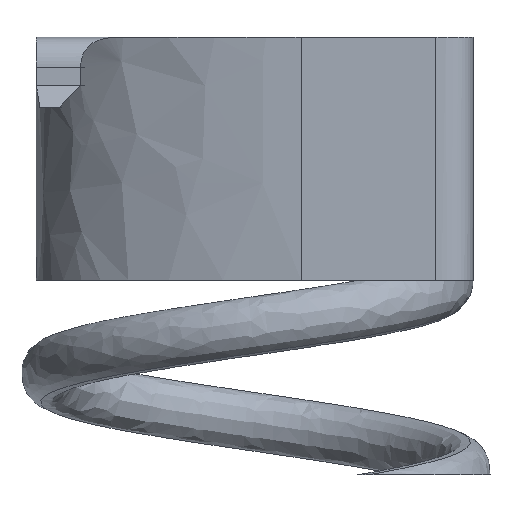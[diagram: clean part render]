
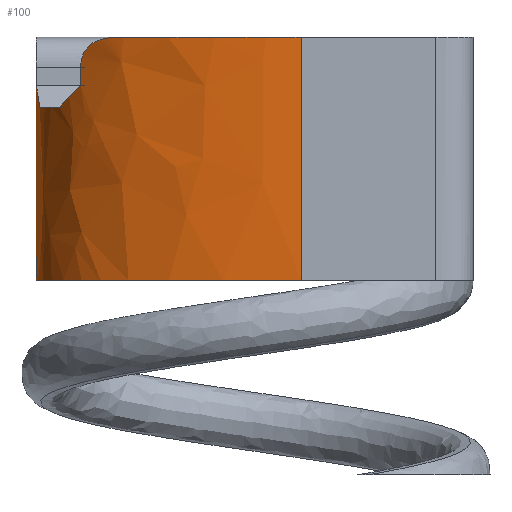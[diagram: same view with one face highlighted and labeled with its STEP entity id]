
A CAD part, left-side view. The second image highlights one B-rep face of the part: STEP entity #100.
In plain terms, the highlighted free-form (B-spline) face has degree [3, 1] with [4, 2] control points.
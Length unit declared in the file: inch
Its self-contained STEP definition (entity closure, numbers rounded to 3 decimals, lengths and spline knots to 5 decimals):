
#100=ADVANCED_FACE('',(#211),#212,.F.);
#211=FACE_OUTER_BOUND('',#541,.T.);
#212=B_SPLINE_SURFACE_WITH_KNOTS('',3,1,((#542,#543),(#544,#545),(#546,#547),(#548,#549)),.UNSPECIFIED.,.F.,.F.,.F.,(4,4),(2,2),(-1.0,-0.0),(0.0,0.39392),.UNSPECIFIED.);
#541=EDGE_LOOP('',(#1490,#1491,#1492,#1493,#1494,#1495,#1496,#1497,#1498,#1499,#1500));
#542=CARTESIAN_POINT('',(0.22426,0.5623,0.02037));
#543=CARTESIAN_POINT('',(0.22426,0.5623,-0.37355));
#544=CARTESIAN_POINT('',(0.02389,0.5623,0.02037));
#545=CARTESIAN_POINT('',(0.02389,0.5623,-0.37355));
#546=CARTESIAN_POINT('',(-0.00003,0.27229,0.02037));
#547=CARTESIAN_POINT('',(-0.00003,0.27229,-0.37355));
#548=CARTESIAN_POINT('',(-0.00003,0.21846,0.02037));
#549=CARTESIAN_POINT('',(-0.00003,0.21846,-0.37355));
#1490=ORIENTED_EDGE('',*,*,#1737,.F.);
#1491=ORIENTED_EDGE('',*,*,#1726,.F.);
#1492=ORIENTED_EDGE('',*,*,#1738,.F.);
#1493=ORIENTED_EDGE('',*,*,#1717,.F.);
#1494=ORIENTED_EDGE('',*,*,#1690,.F.);
#1495=ORIENTED_EDGE('',*,*,#1651,.F.);
#1496=ORIENTED_EDGE('',*,*,#1739,.F.);
#1497=ORIENTED_EDGE('',*,*,#1686,.F.);
#1498=ORIENTED_EDGE('',*,*,#1656,.F.);
#1499=ORIENTED_EDGE('',*,*,#1732,.F.);
#1500=ORIENTED_EDGE('',*,*,#1740,.T.);
#1651=EDGE_CURVE('',#1787,#1788,#1789,.T.);
#1656=EDGE_CURVE('',#1796,#1797,#1798,.T.);
#1686=EDGE_CURVE('',#1797,#1850,#1851,.T.);
#1690=EDGE_CURVE('',#1788,#1856,#1857,.T.);
#1717=EDGE_CURVE('',#1856,#1896,#1897,.T.);
#1726=EDGE_CURVE('',#1909,#1911,#1912,.T.);
#1732=EDGE_CURVE('',#1919,#1796,#1920,.T.);
#1737=EDGE_CURVE('',#1911,#1927,#1928,.T.);
#1738=EDGE_CURVE('',#1896,#1909,#1929,.T.);
#1739=EDGE_CURVE('',#1850,#1787,#1930,.T.);
#1740=EDGE_CURVE('',#1919,#1927,#1931,.T.);
#1787=VERTEX_POINT('',#1987);
#1788=VERTEX_POINT('',#1988);
#1789=B_SPLINE_CURVE_WITH_KNOTS('',3,(#1989,#1990,#1991,#1992,#1993,#1994),.UNSPECIFIED.,.F.,.F.,(4,2,4),(0.0,0.08713,0.1782),.UNSPECIFIED.);
#1796=VERTEX_POINT('',#2004);
#1797=VERTEX_POINT('',#2005);
#1798=B_SPLINE_CURVE_WITH_KNOTS('',3,(#2006,#2007,#2008,#2009),.UNSPECIFIED.,.F.,.F.,(4,4),(0.0,0.12322),.UNSPECIFIED.);
#1850=VERTEX_POINT('',#2130);
#1851=B_SPLINE_CURVE_WITH_KNOTS('',3,(#2131,#2132,#2133,#2134),.UNSPECIFIED.,.F.,.F.,(4,4),(0.0,0.11037),.UNSPECIFIED.);
#1856=VERTEX_POINT('',#2141);
#1857=B_SPLINE_CURVE_WITH_KNOTS('',3,(#2142,#2143,#2144,#2145),.UNSPECIFIED.,.F.,.F.,(4,4),(0.0,0.12322),.UNSPECIFIED.);
#1896=VERTEX_POINT('',#2260);
#1897=B_SPLINE_CURVE_WITH_KNOTS('',3,(#2261,#2262,#2263,#2264,#2265,#2266,#2267,#2268,#2269,#2270,#2271,#2272),.UNSPECIFIED.,.F.,.F.,(4,2,2,2,2,4),(0.0,0.01269,0.02343,0.03485,0.05757,0.07727),.UNSPECIFIED.);
#1909=VERTEX_POINT('',#2291);
#1911=VERTEX_POINT('',#2294);
#1912=LINE('',#2295,#2296);
#1919=VERTEX_POINT('',#2306);
#1920=B_SPLINE_CURVE_WITH_KNOTS('',3,(#2307,#2308,#2309,#2310,#2311,#2312,#2313,#2314),.UNSPECIFIED.,.F.,.F.,(4,2,2,4),(0.0,0.0113,0.02255,0.03347),.UNSPECIFIED.);
#1927=VERTEX_POINT('',#2328);
#1928=B_SPLINE_CURVE_WITH_KNOTS('',3,(#2329,#2330,#2331,#2332),.UNSPECIFIED.,.F.,.F.,(4,4),(0.0,1.0),.UNSPECIFIED.);
#1929=B_SPLINE_CURVE_WITH_KNOTS('',3,(#2333,#2334,#2335,#2336,#2337,#2338,#2339,#2340),.UNSPECIFIED.,.F.,.F.,(4,2,2,4),(0.0,0.07658,0.19463,0.36871),.UNSPECIFIED.);
#1930=B_SPLINE_CURVE_WITH_KNOTS('',3,(#2341,#2342,#2343,#2344,#2345,#2346,#2347,#2348),.UNSPECIFIED.,.F.,.F.,(4,2,2,4),(0.0,0.07132,0.12488,0.17794),.UNSPECIFIED.);
#1931=LINE('',#2349,#2350);
#1987=CARTESIAN_POINT('',(0.12485,0.53231,-0.09006));
#1988=CARTESIAN_POINT('',(0.0936,0.50511,-0.06266));
#1989=CARTESIAN_POINT('',(0.16245,0.5518,-0.12302));
#1990=CARTESIAN_POINT('',(0.14139,0.54411,-0.10456));
#1991=CARTESIAN_POINT('',(0.12179,0.53209,-0.08738));
#1992=CARTESIAN_POINT('',(0.08522,0.49803,-0.05532));
#1993=CARTESIAN_POINT('',(0.06935,0.47643,-0.0414));
#1994=CARTESIAN_POINT('',(0.056,0.45182,-0.0297));
#2004=CARTESIAN_POINT('',(0.21258,0.56197,-0.03944));
#2005=CARTESIAN_POINT('',(0.21258,0.56197,-0.06266));
#2006=CARTESIAN_POINT('',(0.21258,0.56197,0.01056));
#2007=CARTESIAN_POINT('',(0.21258,0.56197,-0.03052));
#2008=CARTESIAN_POINT('',(0.21258,0.56197,-0.07159));
#2009=CARTESIAN_POINT('',(0.21258,0.56197,-0.11266));
#2130=CARTESIAN_POINT('',(0.18089,0.55735,-0.09006));
#2131=CARTESIAN_POINT('',(0.22426,0.5623,-0.05256));
#2132=CARTESIAN_POINT('',(0.19643,0.5623,-0.07663));
#2133=CARTESIAN_POINT('',(0.16897,0.55671,-0.10037));
#2134=CARTESIAN_POINT('',(0.14307,0.54328,-0.12277));
#2141=CARTESIAN_POINT('',(0.0936,0.50511,-0.03944));
#2142=CARTESIAN_POINT('',(0.0936,0.50511,-0.11266));
#2143=CARTESIAN_POINT('',(0.0936,0.50511,-0.07159));
#2144=CARTESIAN_POINT('',(0.0936,0.50511,-0.03052));
#2145=CARTESIAN_POINT('',(0.0936,0.50511,0.01056));
#2260=CARTESIAN_POINT('',(0.05538,0.45066,0.0));
#2261=CARTESIAN_POINT('',(0.0936,0.50511,-0.03944));
#2262=CARTESIAN_POINT('',(0.0936,0.50511,-0.03521));
#2263=CARTESIAN_POINT('',(0.0931,0.50458,-0.03036));
#2264=CARTESIAN_POINT('',(0.09063,0.50186,-0.02156));
#2265=CARTESIAN_POINT('',(0.08902,0.50006,-0.01798));
#2266=CARTESIAN_POINT('',(0.08485,0.49515,-0.01162));
#2267=CARTESIAN_POINT('',(0.08238,0.49212,-0.0091));
#2268=CARTESIAN_POINT('',(0.07466,0.48208,-0.00324));
#2269=CARTESIAN_POINT('',(0.06932,0.47424,-0.00168));
#2270=CARTESIAN_POINT('',(0.06186,0.46229,-0.00023));
#2271=CARTESIAN_POINT('',(0.0585,0.45647,0.0));
#2272=CARTESIAN_POINT('',(0.05538,0.45066,0.0));
#2291=CARTESIAN_POINT('',(0.,0.22179,0.0));
#2294=CARTESIAN_POINT('',(0.,0.22179,-0.31231));
#2295=CARTESIAN_POINT('',(0.,0.22179,0.02037));
#2296=VECTOR('',#2640,1.);
#2306=CARTESIAN_POINT('',(0.22426,0.5623,-0.0091));
#2307=CARTESIAN_POINT('',(0.22426,0.5623,-0.0091));
#2308=CARTESIAN_POINT('',(0.22149,0.5623,-0.01166));
#2309=CARTESIAN_POINT('',(0.21925,0.56225,-0.01466));
#2310=CARTESIAN_POINT('',(0.21575,0.56213,-0.02131));
#2311=CARTESIAN_POINT('',(0.21452,0.56207,-0.0249));
#2312=CARTESIAN_POINT('',(0.21296,0.56199,-0.03211));
#2313=CARTESIAN_POINT('',(0.21258,0.56197,-0.03583));
#2314=CARTESIAN_POINT('',(0.21258,0.56197,-0.03944));
#2328=CARTESIAN_POINT('',(0.22426,0.5623,-0.31231));
#2329=CARTESIAN_POINT('',(-0.00003,0.21846,-0.31231));
#2330=CARTESIAN_POINT('',(-0.00003,0.27229,-0.31231));
#2331=CARTESIAN_POINT('',(0.02389,0.5623,-0.31231));
#2332=CARTESIAN_POINT('',(0.22426,0.5623,-0.31231));
#2333=CARTESIAN_POINT('',(0.10538,0.51679,0.0));
#2334=CARTESIAN_POINT('',(0.08652,0.49958,0.0));
#2335=CARTESIAN_POINT('',(0.07115,0.47874,0.0));
#2336=CARTESIAN_POINT('',(0.03926,0.42224,0.0));
#2337=CARTESIAN_POINT('',(0.02579,0.38314,0.0));
#2338=CARTESIAN_POINT('',(0.00312,0.2885,0.0));
#2339=CARTESIAN_POINT('',(-0.00003,0.23805,0.0));
#2340=CARTESIAN_POINT('',(-0.00003,0.21846,0.0));
#2341=CARTESIAN_POINT('',(0.22426,0.5623,-0.09006));
#2342=CARTESIAN_POINT('',(0.20048,0.5623,-0.09006));
#2343=CARTESIAN_POINT('',(0.17737,0.55822,-0.09006));
#2344=CARTESIAN_POINT('',(0.13897,0.54217,-0.09006));
#2345=CARTESIAN_POINT('',(0.12398,0.53277,-0.09006));
#2346=CARTESIAN_POINT('',(0.09692,0.50975,-0.09006));
#2347=CARTESIAN_POINT('',(0.08515,0.49646,-0.09006));
#2348=CARTESIAN_POINT('',(0.07485,0.48209,-0.09006));
#2349=CARTESIAN_POINT('',(0.22426,0.5623,0.02037));
#2350=VECTOR('',#2645,1.);
#2640=DIRECTION('',(0.0,0.0,-1.0));
#2645=DIRECTION('',(0.0,0.0,-1.0));
